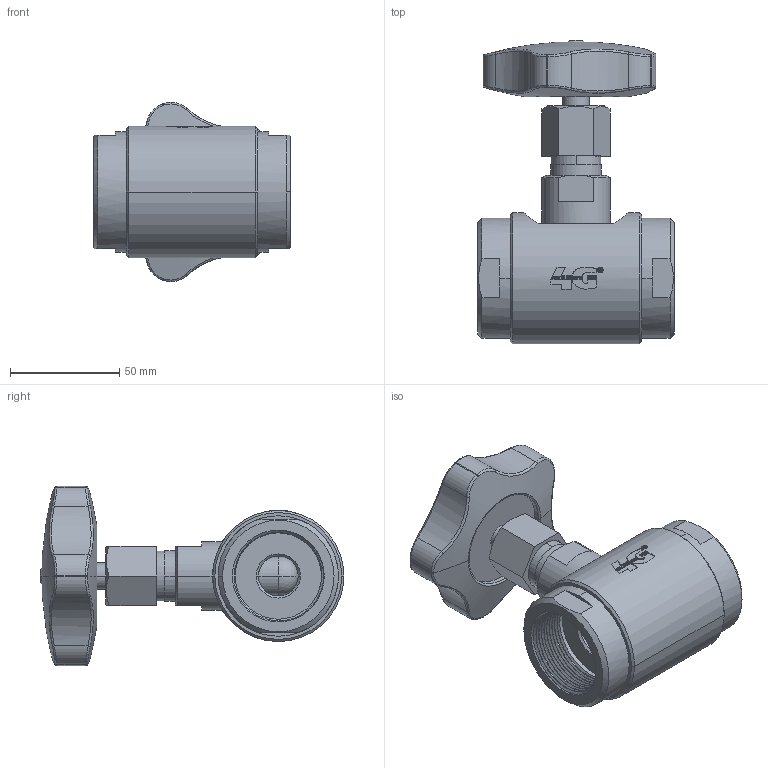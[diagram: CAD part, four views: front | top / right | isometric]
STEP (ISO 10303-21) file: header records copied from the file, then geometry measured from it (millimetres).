
FILE_DESCRIPTION((''),'2;1');
FILE_NAME('67800163000','2016-05-25T',('UFFICIO TECNICO'),('CDM Tecnoconsulting'),'CREO PARAMETRIC BY PTC INC, 2015290','CREO PARAMETRIC BY PTC INC, 2015290','');
FILE_SCHEMA(('CONFIG_CONTROL_DESIGN'));
Length unit declared in the file: millimetre
Products named in the file (1): 67800163000
Bounding box: 90 x 138.9 x 82.01 mm (x, y, z)
Surface area: 56472.3 mm2 (no closed solid volume)
Topology: 0 solids, 15 shells, 305 faces, 1003 edges, 697 vertices
Faces by surface type: cylinder 96, plane 92, bspline 50, cone 30, torus 16, extrusion 15, sphere 6
Entity records: 21403 total; most frequent: CARTESIAN_POINT 12757, ORIENTED_EDGE 1700, DIRECTION 1395, EDGE_CURVE 1001, VERTEX_POINT 697, AXIS2_PLACEMENT_3D 491, VECTOR 413, LINE 398
